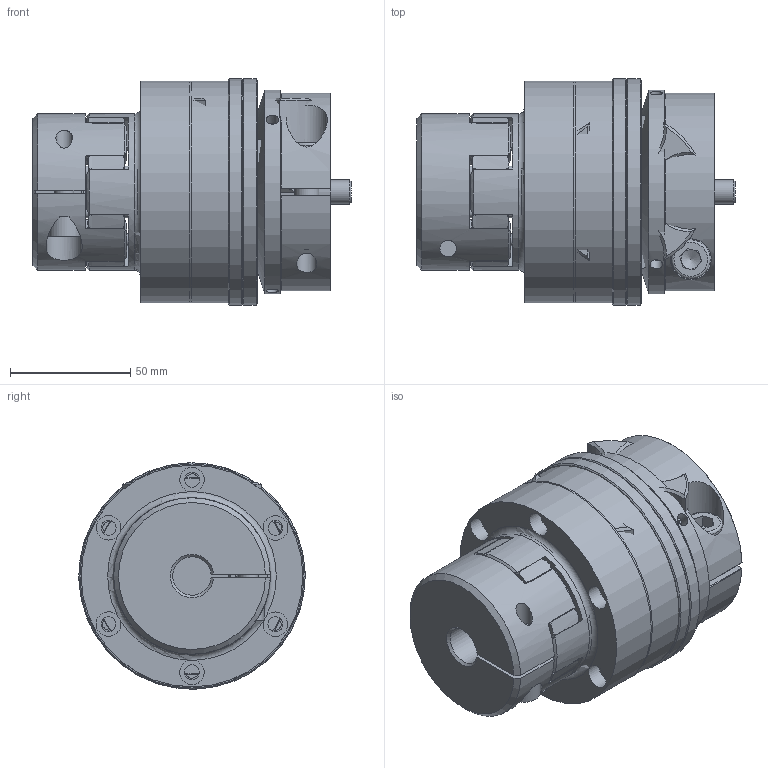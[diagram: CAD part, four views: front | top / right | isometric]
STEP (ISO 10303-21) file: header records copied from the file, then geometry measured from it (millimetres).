
FILE_DESCRIPTION( ( 'Unknown' ), '1' );
FILE_NAME( 'C:/Dokumente und Einstellungen/Sven/Desktop/hp kbk/E-KK/KBK EKK-28-128.stp', 'Unknown', ( 'Unknown' ), ( 'Unknown' ), 'XStep 1.0', 'Unknown', ' ' );
FILE_SCHEMA( ( 'automotive_design' ) );
Length unit declared in the file: millimetre
Products named in the file (18): Assem1; Assem2; Assem3; Assem4; ball_bearing_-_6008_0_01; ball_bearing_-_6008_0_02; ball_bearing_-_6008_0_03; Zylinderschraube DIN 912_0; Stellring 80; Druckring 80; Flansch 80; a_40; KBK L-K-80 Grundkörper; Klemmnabe 80; KBE 2 C - 28_Nabe; Zahnkranz EK28_Standard; Elastomerflansch 28; Socket Head Cap Screw_DIN_DIN 912 M10 x 35 --- 35C
Bounding box: 132.15 x 94 x 94 mm (x, y, z)
Volume: 1075203.7 mm3; surface area: 335168.7 mm2
Topology: 32 solids, 32 shells, 814 faces, 1924 edges, 1238 vertices
Faces by surface type: cylinder 298, plane 260, cone 205, torus 51
Full cylindrical faces by diameter (mm): 2.5 x4, 3.242 x6, 4.917 x12, 5 x24, 5.2 x6, 6.2 x12, 6.8 x2, 8 x3, 8.376 x2, 9 x2, 10 x2, 10.2 x12, 10.5 x2, 13 x3, 16 x2, 17 x2, 19 x2, 30 x6, 37.5 x2, 40 x7, 42 x2, 49.2 x6, 59.1 x6, 61 x2, 62 x4, 65 x2, 68 x7, 70 x2, 85 x2, 87 x2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
Entity records: 11908 total; most frequent: CARTESIAN_POINT 2938, DIRECTION 1883, ORIENTED_EDGE 1522, AXIS2_PLACEMENT_3D 857, EDGE_CURVE 761, EDGE_LOOP 586, VERTEX_POINT 548, FACE_OUTER_BOUND 477
